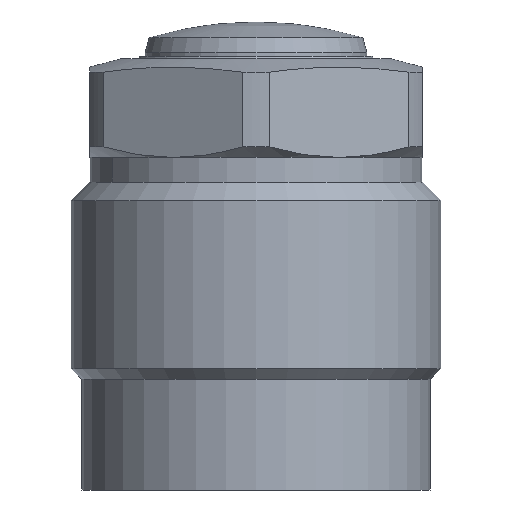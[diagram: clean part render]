
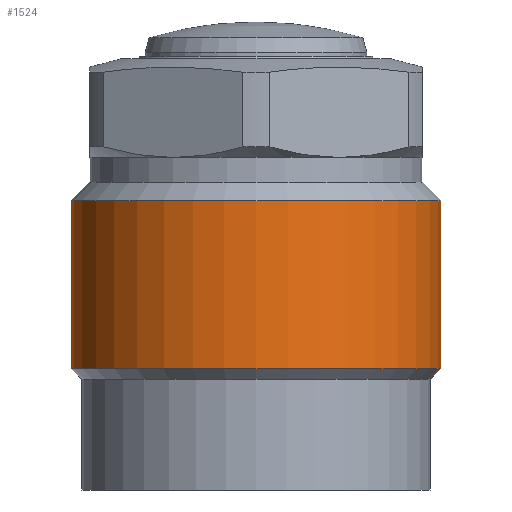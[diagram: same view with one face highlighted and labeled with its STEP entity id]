
A CAD part, front view. The second image highlights one B-rep face of the part: STEP entity #1524.
In plain terms, the highlighted cylindrical face has radius 15 mm (diameter 30 mm), a partial arc.
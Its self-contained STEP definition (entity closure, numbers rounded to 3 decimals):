
#1461=CARTESIAN_POINT('',(-15.0,0.0,-25.15));
#1462=VERTEX_POINT('',#1461);
#1470=CARTESIAN_POINT('',(15.0,0.0,-25.15));
#1471=VERTEX_POINT('',#1470);
#1478=CARTESIAN_POINT('',(0.0,0.0,-25.15));
#1479=DIRECTION('',(0.0,0.0,1.0));
#1480=DIRECTION('',(1.0,0.0,0.0));
#1481=AXIS2_PLACEMENT_3D('',#1478,#1479,#1480);
#1482=CIRCLE('',#1481,15.0);
#1483=EDGE_CURVE('no 2008',#1462,#1471,#1482,.T.);
#1493=CARTESIAN_POINT('',(-15.0,0.0,-11.5));
#1494=VERTEX_POINT('',#1493);
#1495=CARTESIAN_POINT('',(-15.0,0.0,-25.15));
#1496=DIRECTION('',(-0.0,-0.0,1.0));
#1497=VECTOR('',#1496,1.0);
#1498=LINE('',#1495,#1497);
#1499=EDGE_CURVE('no 2018',#1462,#1494,#1498,.T.);
#1500=ORIENTED_EDGE('',*,*,#1499,.F.);
#1501=ORIENTED_EDGE('',*,*,#1483,.T.);
#1502=CARTESIAN_POINT('',(15.0,0.0,-11.5));
#1503=VERTEX_POINT('',#1502);
#1504=CARTESIAN_POINT('',(15.0,0.0,-25.15));
#1505=DIRECTION('',(0.0,0.0,1.0));
#1506=VECTOR('',#1505,1.0);
#1507=LINE('',#1504,#1506);
#1508=EDGE_CURVE('no 2026',#1471,#1503,#1507,.T.);
#1509=ORIENTED_EDGE('',*,*,#1508,.T.);
#1510=CARTESIAN_POINT('',(0.0,0.0,-11.5));
#1511=DIRECTION('',(0.0,0.0,1.0));
#1512=DIRECTION('',(1.0,0.0,0.0));
#1513=AXIS2_PLACEMENT_3D('',#1510,#1511,#1512);
#1514=CIRCLE('',#1513,15.0);
#1515=EDGE_CURVE('no 2030',#1494,#1503,#1514,.T.);
#1516=ORIENTED_EDGE('',*,*,#1515,.F.);
#1517=EDGE_LOOP('',(#1500,#1501,#1509,#1516));
#1518=FACE_OUTER_BOUND('',#1517,.T.);
#1519=CARTESIAN_POINT('',(0.0,0.0,3.903));
#1520=DIRECTION('',(0.0,0.0,1.0));
#1521=DIRECTION('',(0.0,1.0,0.0));
#1522=AXIS2_PLACEMENT_3D('',#1519,#1520,#1521);
#1523=CYLINDRICAL_SURFACE('',#1522,15.0);
#1524=ADVANCED_FACE('no 2011',(#1518),#1523,.T.);
